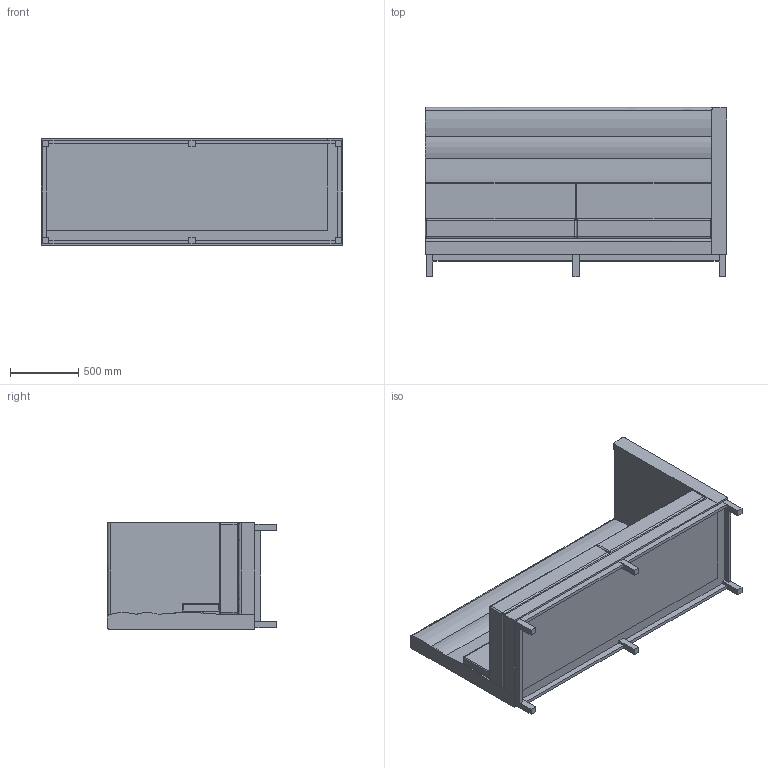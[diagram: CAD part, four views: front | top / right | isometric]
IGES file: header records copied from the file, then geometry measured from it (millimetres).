
Start section: SolidWorks IGES file using analytic representation for surfaces
Global section: file name: P:\3D CAD BLOCKS\ARTHUR CITYSCAPE\HB Bumped Large LH\IGS\ART-HB-BUMP-LARGE-LH-ART-CITY-LH.IGS; native system: SolidWorks 2012; preprocessor: SolidWorks 2012; author: tom; date: 160523.093728; units: millimetre
Bounding box: 2210 x 1240 x 780 mm (x, y, z)
Surface area: 16607015.1 mm2 (no closed solid volume)
Topology: 0 solids, 0 shells, 199 faces, 940 edges, 929 vertices
Faces by surface type: bspline 110, revolution 89
